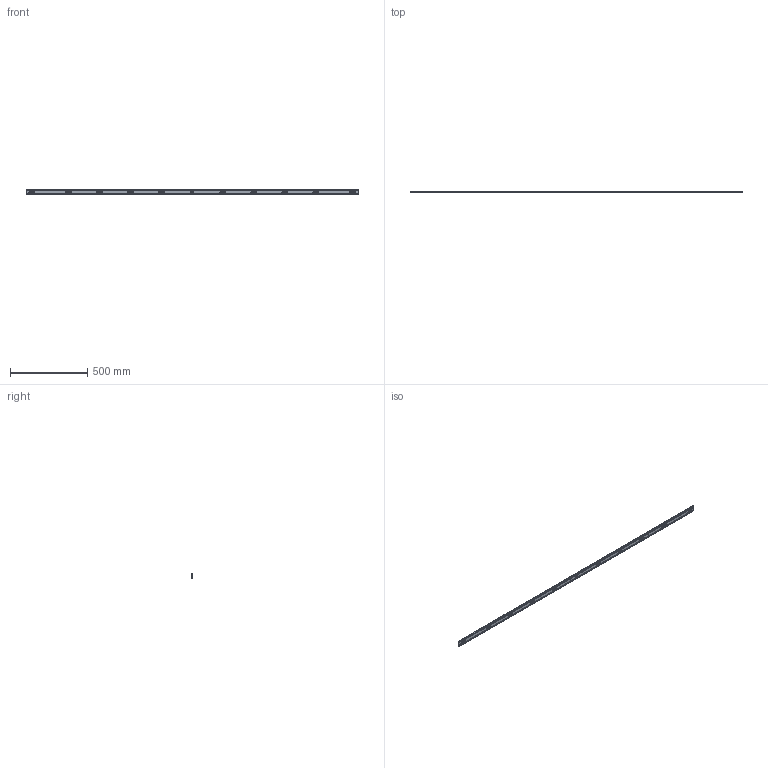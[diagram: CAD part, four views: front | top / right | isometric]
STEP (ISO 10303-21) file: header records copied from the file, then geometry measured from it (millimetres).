
FILE_DESCRIPTION(('Creo Elements/Direct Modeling STEP Export'),'2;1');
FILE_NAME('B3-2040.stp','2020-11-02T14:34:59',(''),(''),'Creo Elements/Direct Modeling STEP processor for AP214 (Solid Model)','Creo Elements/Direct Modeling 19.0G 27-Nov-2017 (C) Parametric Technology GmbH','');
FILE_SCHEMA(('AUTOMOTIVE_DESIGN { 1 0 10303 214 1 1 1 1 }'));
Products named in the file (2): PERFIL_SOPORTE_MECANIZADO_REGLA_SV3-2040
Assembly tree (1 placements, depth 2):
  PERFIL_SOPORTE_MECANIZADO_REGLA_SV3-2040
    PERFIL_SOPORTE_MECANIZADO_REGLA_SV3-2040
Bounding box: 2145 x 12.13 x 36.1 mm (x, y, z)
Volume: 515929.5 mm3; surface area: 267653.2 mm2
Topology: 1 solids, 1 shells, 2478 faces, 7334 edges, 4862 vertices
Faces by surface type: plane 1400, cylinder 828, cone 154, torus 48, bspline 48
Entity records: 92717 total; most frequent: CARTESIAN_POINT 20312, ORIENTED_EDGE 14644, DIRECTION 12416, EDGE_CURVE 7322, VERTEX_POINT 4862, VECTOR 4180, LINE 4180, AXIS2_PLACEMENT_3D 4118
